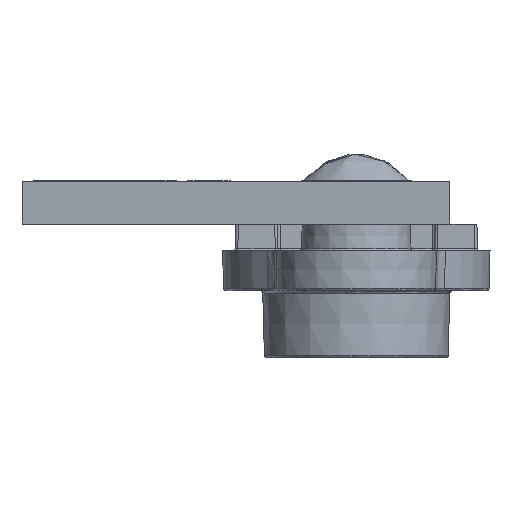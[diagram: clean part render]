
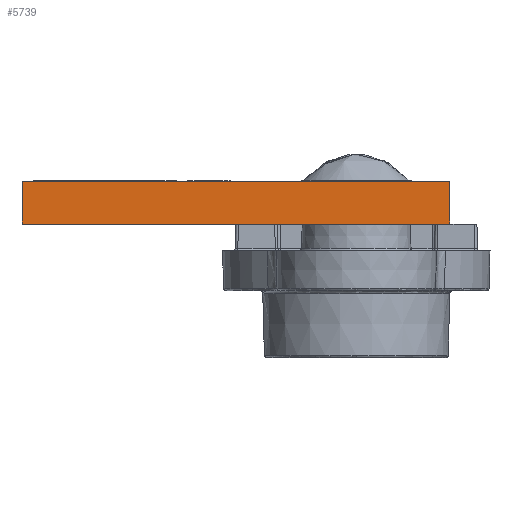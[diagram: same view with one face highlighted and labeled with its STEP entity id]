
A CAD part, left-side view. The second image highlights one B-rep face of the part: STEP entity #5739.
In plain terms, the highlighted planar face has unit normal (-1, 0, 0).
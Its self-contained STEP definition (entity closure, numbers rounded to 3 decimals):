
#1480 = LINE ( 'NONE', #27932, #28845 ) ;
#1591 = EDGE_LOOP ( 'NONE', ( #17908, #5398, #30897, #31184 ) ) ;
#1763 = CARTESIAN_POINT ( 'NONE',  ( -17.5, 1.6, 8. ) ) ;
#2361 = CARTESIAN_POINT ( 'NONE',  ( -17.5, 0., 0. ) ) ;
#5398 = ORIENTED_EDGE ( 'NONE', *, *, #19548, .F. ) ;
#5739 = ADVANCED_FACE ( 'NONE', ( #20543 ), #10982, .F. ) ;
#6320 = VECTOR ( 'NONE', #25706, 1000. ) ;
#6725 = VECTOR ( 'NONE', #31350, 1000. ) ;
#7098 = VERTEX_POINT ( 'NONE', #15356 ) ;
#7716 = VECTOR ( 'NONE', #11484, 1000. ) ;
#8607 = DIRECTION ( 'NONE',  ( 1., 0., 0. ) ) ;
#9696 = LINE ( 'NONE', #2361, #6725 ) ;
#10982 = PLANE ( 'NONE',  #26137 ) ;
#11484 = DIRECTION ( 'NONE',  ( 0., 0., 1. ) ) ;
#13309 = LINE ( 'NONE', #15825, #6320 ) ;
#15356 = CARTESIAN_POINT ( 'NONE',  ( -17.5, 1.6, -8. ) ) ;
#15792 = DIRECTION ( 'NONE',  ( 0., -1., 0. ) ) ;
#15825 = CARTESIAN_POINT ( 'NONE',  ( -17.5, 1.6, 8. ) ) ;
#16100 = VERTEX_POINT ( 'NONE', #21922 ) ;
#16286 = CARTESIAN_POINT ( 'NONE',  ( -17.5, 1.6, 8. ) ) ;
#17908 = ORIENTED_EDGE ( 'NONE', *, *, #17994, .F. ) ;
#17994 = EDGE_CURVE ( 'NONE', #18443, #16100, #13309, .T. ) ;
#18443 = VERTEX_POINT ( 'NONE', #16286 ) ;
#19548 = EDGE_CURVE ( 'NONE', #7098, #18443, #23601, .T. ) ;
#19619 = VERTEX_POINT ( 'NONE', #26274 ) ;
#20543 = FACE_OUTER_BOUND ( 'NONE', #1591, .T. ) ;
#21922 = CARTESIAN_POINT ( 'NONE',  ( -17.5, 0., 8. ) ) ;
#23601 = LINE ( 'NONE', #1763, #7716 ) ;
#25593 = DIRECTION ( 'NONE',  ( 0., 0., -1. ) ) ;
#25706 = DIRECTION ( 'NONE',  ( 0., -1., 0. ) ) ;
#26137 = AXIS2_PLACEMENT_3D ( 'NONE', #30420, #8607, #25593 ) ;
#26274 = CARTESIAN_POINT ( 'NONE',  ( -17.5, 0., -8. ) ) ;
#26542 = EDGE_CURVE ( 'NONE', #7098, #19619, #1480, .T. ) ;
#27932 = CARTESIAN_POINT ( 'NONE',  ( -17.5, 1.6, -8. ) ) ;
#28845 = VECTOR ( 'NONE', #15792, 1000. ) ;
#29951 = EDGE_CURVE ( 'NONE', #16100, #19619, #9696, .T. ) ;
#30420 = CARTESIAN_POINT ( 'NONE',  ( -17.5, 1.6, 8. ) ) ;
#30897 = ORIENTED_EDGE ( 'NONE', *, *, #26542, .T. ) ;
#31184 = ORIENTED_EDGE ( 'NONE', *, *, #29951, .F. ) ;
#31350 = DIRECTION ( 'NONE',  ( 0., 0., -1. ) ) ;
